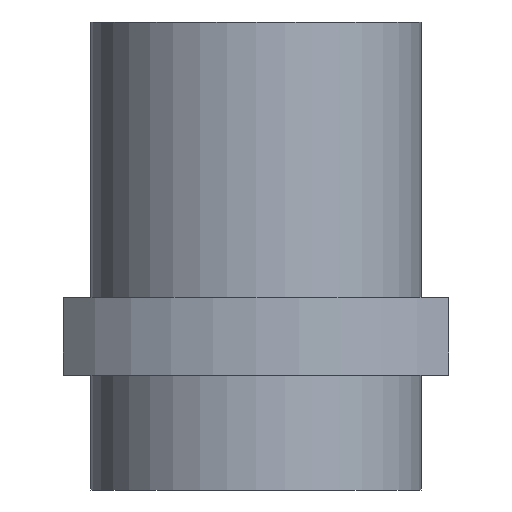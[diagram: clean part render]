
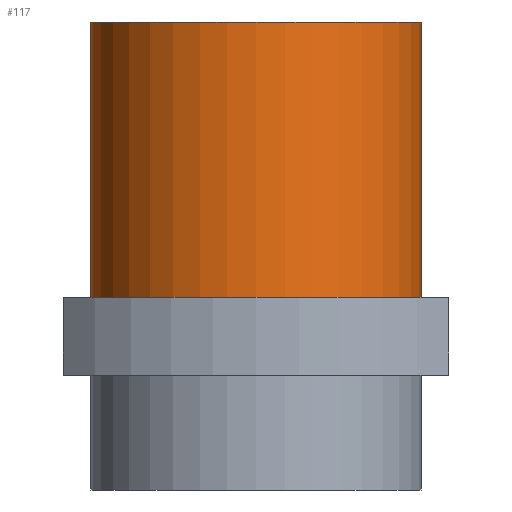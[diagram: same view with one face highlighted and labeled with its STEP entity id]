
A CAD part, front view. The second image highlights one B-rep face of the part: STEP entity #117.
In plain terms, the highlighted cylindrical face has radius 36 mm (diameter 72 mm), a full revolution.
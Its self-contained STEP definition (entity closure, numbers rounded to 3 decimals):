
#117=ADVANCED_FACE('',(#202,#203),#130,.T.);
#130=CYLINDRICAL_SURFACE('',#403,36.);
#155=CIRCLE('',#388,36.);
#159=CIRCLE('',#402,36.);
#202=FACE_BOUND('',#242,.T.);
#203=FACE_BOUND('',#243,.T.);
#242=EDGE_LOOP('',(#302));
#243=EDGE_LOOP('',(#303));
#302=ORIENTED_EDGE('',*,*,#359,.T.);
#303=ORIENTED_EDGE('',*,*,#365,.F.);
#331=VERTEX_POINT('',#556);
#335=VERTEX_POINT('',#576);
#359=EDGE_CURVE('',#331,#331,#155,.T.);
#365=EDGE_CURVE('',#335,#335,#159,.T.);
#388=AXIS2_PLACEMENT_3D('',#555,#450,#451);
#402=AXIS2_PLACEMENT_3D('',#575,#480,#481);
#403=AXIS2_PLACEMENT_3D('',#577,#482,#483);
#450=DIRECTION('',(0.,0.,1.));
#451=DIRECTION('',(1.,0.,0.));
#480=DIRECTION('',(0.,0.,1.));
#481=DIRECTION('',(1.,0.,0.));
#482=DIRECTION('',(0.,0.,-1.));
#483=DIRECTION('',(-1.,0.,0.));
#555=CARTESIAN_POINT('',(0.,0.,42.));
#556=CARTESIAN_POINT('',(36.,0.,42.));
#575=CARTESIAN_POINT('',(0.,0.,102.));
#576=CARTESIAN_POINT('',(36.,0.,102.));
#577=CARTESIAN_POINT('',(0.,0.,102.));
